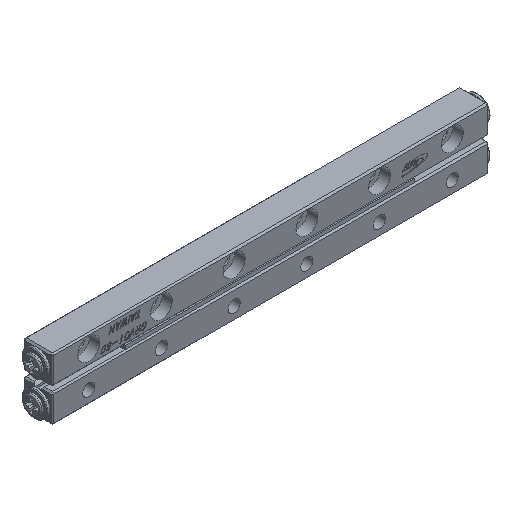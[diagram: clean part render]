
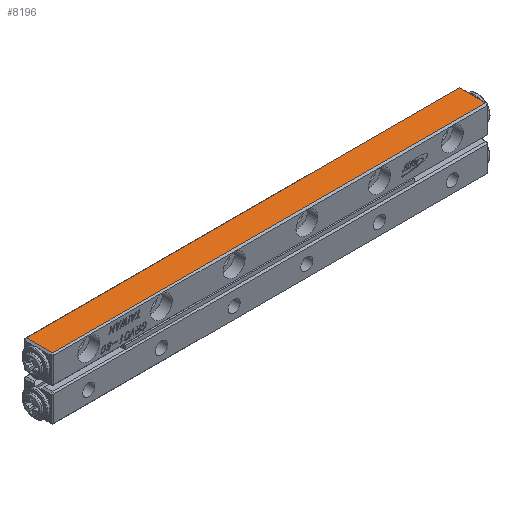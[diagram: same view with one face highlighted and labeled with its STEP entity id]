
A CAD part, isometric view. The second image highlights one B-rep face of the part: STEP entity #8196.
In plain terms, the highlighted planar face has unit normal (0, 0, 1) as drawn and (0, 0, -1) by its records, which use the part's own axes.
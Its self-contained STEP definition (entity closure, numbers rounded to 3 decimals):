
#140 = EDGE_CURVE ( 'NONE', #9369, #11974, #7977, .T. ) ;
#499 = VERTEX_POINT ( 'NONE', #14147 ) ;
#1724 = DIRECTION ( 'NONE',  ( 0., -1., 0. ) ) ;
#2247 = LINE ( 'NONE', #11544, #15714 ) ;
#4084 = CARTESIAN_POINT ( 'NONE',  ( -30., -1.8, 0. ) ) ;
#4412 = ORIENTED_EDGE ( 'NONE', *, *, #140, .T. ) ;
#4988 = EDGE_CURVE ( 'NONE', #11974, #14952, #10035, .T. ) ;
#5272 = LINE ( 'NONE', #25183, #18159 ) ;
#5541 = DIRECTION ( 'NONE',  ( 1., 0., 0. ) ) ;
#6018 = CARTESIAN_POINT ( 'NONE',  ( -29.8, -1.8, 0. ) ) ;
#6354 = EDGE_LOOP ( 'NONE', ( #12575, #24430, #4412, #9361 ) ) ;
#7199 = EDGE_CURVE ( 'NONE', #14952, #499, #5272, .T. ) ;
#7727 = VECTOR ( 'NONE', #14298, 1000. ) ;
#7977 = LINE ( 'NONE', #4084, #7727 ) ;
#8103 = CARTESIAN_POINT ( 'NONE',  ( -29.8, 2., 0. ) ) ;
#8196 = ADVANCED_FACE ( 'NONE', ( #21503 ), #11932, .T. ) ;
#8565 = CARTESIAN_POINT ( 'NONE',  ( 29.8, -1.8, 0. ) ) ;
#9361 = ORIENTED_EDGE ( 'NONE', *, *, #4988, .T. ) ;
#9369 = VERTEX_POINT ( 'NONE', #8565 ) ;
#10035 = LINE ( 'NONE', #8103, #15935 ) ;
#10120 = DIRECTION ( 'NONE',  ( 0., 0., -1. ) ) ;
#11544 = CARTESIAN_POINT ( 'NONE',  ( 29.8, -2., 0. ) ) ;
#11932 = PLANE ( 'NONE',  #16107 ) ;
#11974 = VERTEX_POINT ( 'NONE', #6018 ) ;
#12575 = ORIENTED_EDGE ( 'NONE', *, *, #7199, .T. ) ;
#13754 = DIRECTION ( 'NONE',  ( 0., 1., 0. ) ) ;
#14042 = DIRECTION ( 'NONE',  ( 0., 1., 0. ) ) ;
#14147 = CARTESIAN_POINT ( 'NONE',  ( 29.8, 1.8, 0. ) ) ;
#14298 = DIRECTION ( 'NONE',  ( -1., 0., 0. ) ) ;
#14952 = VERTEX_POINT ( 'NONE', #19838 ) ;
#15714 = VECTOR ( 'NONE', #1724, 1000. ) ;
#15935 = VECTOR ( 'NONE', #14042, 1000. ) ;
#16107 = AXIS2_PLACEMENT_3D ( 'NONE', #19825, #10120, #13754 ) ;
#16802 = EDGE_CURVE ( 'NONE', #499, #9369, #2247, .T. ) ;
#18159 = VECTOR ( 'NONE', #5541, 1000. ) ;
#19825 = CARTESIAN_POINT ( 'NONE',  ( -30., -2., 0. ) ) ;
#19838 = CARTESIAN_POINT ( 'NONE',  ( -29.8, 1.8, 0. ) ) ;
#21503 = FACE_OUTER_BOUND ( 'NONE', #6354, .T. ) ;
#24430 = ORIENTED_EDGE ( 'NONE', *, *, #16802, .T. ) ;
#25183 = CARTESIAN_POINT ( 'NONE',  ( -30., 1.8, 0. ) ) ;
